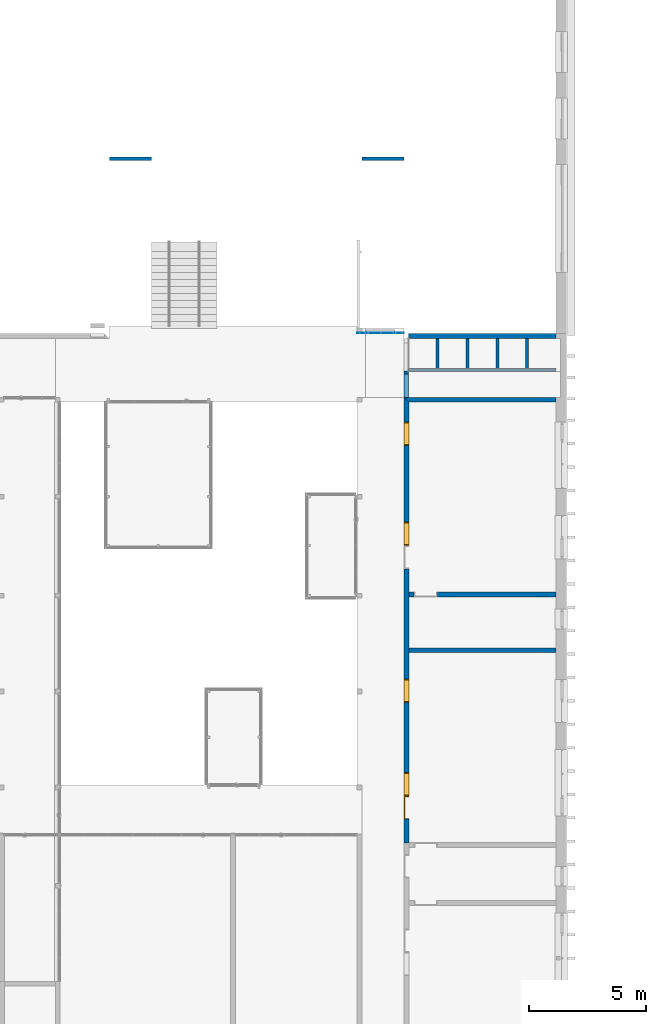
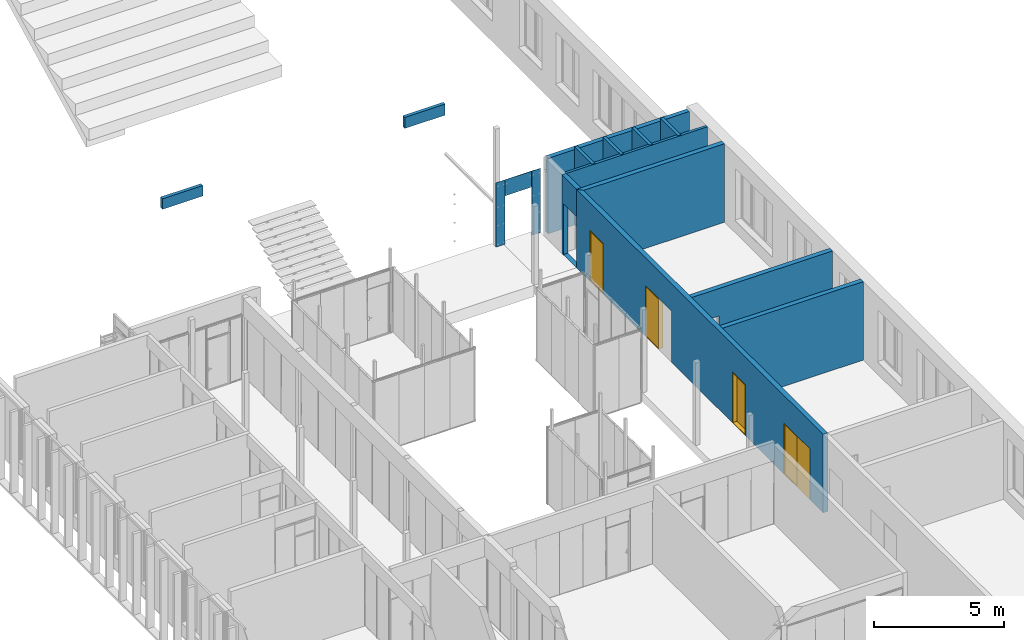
# One storey, part 32 of 387: 16 walls, 4 windows, 1 door, 8 openings.
"""IFC2X3 building model written with IfcOpenShell, lengths in millimetres."""

from ifc_helpers import new_model, entity, si_unit, converted_unit, derived_unit, money_unit, direction, frame, origin_with_axes, origin_2d_with_axis, place, context, subcontext, project, spatial, polyline, rectangle, outline, extrude, open_shell, faceted_brep, surface_model, source, transform, mapped, material, layer, layer_set, layer_usage, type_object, element, fill, save


model = new_model("IFC2X3")

# Units and contexts
model_context = context("Model", 3, precision=0.01, world=origin_with_axes(), true_north=direction((0.0, 1.0)))
body_context = subcontext(model_context, "Body", "Model", "MODEL_VIEW")
ifc_project = project(units=[si_unit("LENGTHUNIT", "METRE", prefix="MILLI"), si_unit("AREAUNIT", "SQUARE_METRE"), si_unit("VOLUMEUNIT", "CUBIC_METRE"), converted_unit("PLANEANGLEUNIT", "DEGREE", entity("IfcPlaneAngleMeasure", 0.0174532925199), si_unit("PLANEANGLEUNIT", "RADIAN"), dimensions=[0, 0, 0, 0, 0, 0, 0]), si_unit("SOLIDANGLEUNIT", "STERADIAN"), money_unit("EUR"), converted_unit("TIMEUNIT", "Year", entity("IfcTimeMeasure", 31556926.0), si_unit("TIMEUNIT", "SECOND"), dimensions=[0, 0, 1, 0, 0, 0, 0]), si_unit("MASSUNIT", "GRAM", prefix="KILO"), si_unit("THERMODYNAMICTEMPERATUREUNIT", "DEGREE_CELSIUS"), si_unit("LUMINOUSINTENSITYUNIT", "LUMEN"), si_unit("ENERGYUNIT", "JOULE", prefix="MEGA"), derived_unit("THERMALCONDUCTANCEUNIT", [(si_unit("POWERUNIT", "WATT"), 1), (si_unit("LENGTHUNIT", "METRE"), -1), (si_unit("THERMODYNAMICTEMPERATUREUNIT", "KELVIN"), -1)]), derived_unit("SPECIFICHEATCAPACITYUNIT", [(si_unit("ENERGYUNIT", "JOULE"), 1), (si_unit("MASSUNIT", "GRAM", prefix="KILO"), -1), (si_unit("THERMODYNAMICTEMPERATUREUNIT", "KELVIN"), -1)]), derived_unit("MASSDENSITYUNIT", [(si_unit("MASSUNIT", "GRAM", prefix="KILO"), 1), (si_unit("VOLUMEUNIT", "CUBIC_METRE"), -1)])], contexts=[model_context])

# Site, building, storey
site_placement = place(None, origin_with_axes())
site = spatial("IfcSite", under=ifc_project, at=site_placement, Name="Puškini 31, Narva", CompositionType="ELEMENT")
building_placement = place(site_placement, origin_with_axes())
building = spatial("IfcBuilding", under=site, at=building_placement, Name="Narva Riigigümnaasium", CompositionType="ELEMENT")
storey_placement = place(building_placement, frame((0.0, 0.0, 2640.0), z_axis=(0.0, 0.0, 1.0), x_axis=(1.0, 0.0, 0.0)))
storey = spatial("IfcBuildingStorey", under=building, at=storey_placement, Name="2.korrus +2.64", CompositionType="ELEMENT", Elevation=2640.0)

# Wall
ifc_material_1 = material(Name="Betoon element")
ifc_layer_1 = layer(ifc_material_1, 200.0, ventilated="UNKNOWN")
ifc_layer_set_1 = layer_set([ifc_layer_1], Name="G-SS-01")
ifc_layer_usage_1 = layer_usage(ifc_layer_set_1, "AXIS2", "POSITIVE", 0.0)
wall_type_1 = type_object("IfcWallType", Name="G-SS-01 200", PredefinedType="NOTDEFINED")
wall_1_placement = place(storey_placement, frame((53999.999986, 194900.0, 0.0), z_axis=(0.0, 0.0, 1.0), x_axis=(-1.0, 0.0, 0.0)))
element("IfcWallStandardCase", 1, at=wall_1_placement, inside=storey, type_object=wall_type_1, material=ifc_layer_usage_1, Name="Sisesein", context=body_context, shape_type="SweptSolid", body=[
    extrude(outline(polyline([(9.99998420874, 0.0), (6299.99999244, 0.0), (6299.99999244, 200.0), (9.99998420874, 200.0), (9.99998420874, 0.0)])), origin_with_axes(), (0.0, 0.0, 1.0), 3560.0),
])

# Wall, opening
wall_2_placement = place(storey_placement, frame((47499.9999936, 193300.0, 0.0), z_axis=(0.0, 0.0, 1.0), x_axis=(0.0, -1.0, 0.0)))
wall_2 = element("IfcWallStandardCase", 2, at=wall_2_placement, inside=storey, type_object=wall_type_1, material=ifc_layer_usage_1, Name="Sisesein", context=body_context, shape_type="SweptSolid", body=[
    extrude(outline(polyline([(0.0, 0.0), (1119.99999964, 0.0), (1119.99999964, 200.0), (0.0, 200.0), (0.0, 0.0)])), origin_with_axes(), (0.0, 0.0, 1.0), 3700.0),
])
opening_1_placement = place(wall_2_placement, frame((619.999999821, 0.0, 10.0), z_axis=(0.0, 0.0, 1.0), x_axis=(1.0, 0.0, 0.0)))
element("IfcOpeningElement", 3, at=opening_1_placement, cuts=wall_2, Name="Tühi ava", context=body_context, shape_type="SweptSolid", body=[
    extrude(rectangle(XDim=999.999999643, YDim=2400.0, at=origin_2d_with_axis()), frame((0.0, 200.0, 1200.0), z_axis=(0.0, -1.0, 0.0), x_axis=(1.0, 0.0, 0.0)), (0.0, 0.0, 1.0), 600.0),
])

# Walls
ifc_material_2 = material(Name="SKR-02_Kipsplaat")
ifc_layer_2 = layer(ifc_material_2, 12.5, ventilated="UNKNOWN")
ifc_material_3 = material(Name="SOJ-03_Soojustus - Mineraal Pehme")
ifc_layer_3 = layer(ifc_material_3, 100.0, ventilated="UNKNOWN")
ifc_layer_set_2 = layer_set([ifc_layer_2, ifc_layer_2, ifc_layer_3, ifc_layer_2, ifc_layer_2], Name="G-SS-09")
ifc_layer_usage_2 = layer_usage(ifc_layer_set_2, "AXIS2", "NEGATIVE", 0.0)
wall_type_2 = type_object("IfcWallType", Name="G-SS-09 150", PredefinedType="NOTDEFINED")
wall_3_placement = place(storey_placement, frame((36699.9999995, 202300.000012, 1025.0), z_axis=(0.0, 0.0, 1.0), x_axis=(-1.0, 0.0, 0.0)))
element("IfcWallStandardCase", 4, at=wall_3_placement, inside=storey, type_object=wall_type_2, material=ifc_layer_usage_2, Name="Sisesein", context=body_context, shape_type="SweptSolid", body=[
    extrude(outline(polyline([(0.0, -150.0), (1799.98612926, -150.0), (1799.98612926, 0.0), (0.0, 0.0), (0.0, -150.0)])), origin_with_axes(), (0.0, 0.0, 1.0), 495.0),
])
wall_4_placement = place(storey_placement, frame((47499.9861293, 202300.000012, 1055.0), z_axis=(0.0, 0.0, 1.0), x_axis=(-1.0, 0.0, 0.0)))
element("IfcWallStandardCase", 5, at=wall_4_placement, inside=storey, type_object=wall_type_2, material=ifc_layer_usage_2, Name="Sisesein", context=body_context, shape_type="SweptSolid", body=[
    extrude(outline(polyline([(0.0, -150.0), (1799.98612926, -150.0), (1799.98612926, 0.0), (0.0, 0.0), (0.0, -150.0)])), origin_with_axes(), (0.0, 0.0, 1.0), 520.0),
])
ifc_material_4 = material(Name="Klaas")
ifc_layer_4 = layer(ifc_material_4, 12.0, ventilated="UNKNOWN")
ifc_layer_set_3 = layer_set([ifc_layer_4], Name="Klaas 12")
ifc_layer_usage_3 = layer_usage(ifc_layer_set_3, "AXIS2", "POSITIVE", -12.0)
wall_type_3 = type_object("IfcWallType", Name="Klaas 12", PredefinedType="NOTDEFINED")
wall_5_placement = place(storey_placement, frame((45499.9999983, 194938.0, 0.0), z_axis=(0.0, 0.0, 1.0), x_axis=(1.0, 0.0, 0.0)))
element("IfcWallStandardCase", 6, at=wall_5_placement, inside=storey, type_object=wall_type_3, material=ifc_layer_usage_3, Name="Sisesein", context=body_context, shape_type="SweptSolid", body=[
    extrude(outline(polyline([(0.0, -12.0), (400.000000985, -12.0), (400.000000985, 0.0), (0.0, 0.0), (0.0, -12.0)])), origin_with_axes(), (0.0, 0.0, 1.0), 3029.0),
])
wall_6_placement = place(storey_placement, frame((47099.9999993, 194938.0, 0.0), z_axis=(0.0, 0.0, 1.0), x_axis=(1.0, 0.0, 0.0)))
element("IfcWallStandardCase", 7, at=wall_6_placement, inside=storey, type_object=wall_type_3, material=ifc_layer_usage_3, Name="Sisesein", context=body_context, shape_type="SweptSolid", body=[
    extrude(outline(polyline([(0.0, -12.0), (395.0, -12.0), (395.0, 0.0), (0.0, 0.0), (0.0, -12.0)])), origin_with_axes(), (0.0, 0.0, 1.0), 3029.0),
])
ifc_layer_usage_4 = layer_usage(ifc_layer_set_3, "AXIS2", "NEGATIVE", 12.0)
wall_7_placement = place(storey_placement, frame((47095.0, 194938.0, 2280.0), z_axis=(0.0, 0.0, 1.0), x_axis=(-1.0, 0.0, 0.0)))
element("IfcWallStandardCase", 8, at=wall_7_placement, inside=storey, type_object=wall_type_3, material=ifc_layer_usage_4, Name="Sisesein", context=body_context, shape_type="SweptSolid", body=[
    extrude(outline(polyline([(0.0, 0.0), (1190.0, 0.0), (1190.0, 12.0), (0.0, 12.0), (0.0, 0.0)])), origin_with_axes(), (0.0, 0.0, 1.0), 749.0),
])

# Wall, openings, windows, door
ifc_material_5 = material(Name="siseviimistlus-seinad")
ifc_layer_5 = layer(ifc_material_5, 10.0, ventilated="UNKNOWN")
ifc_layer_set_4 = layer_set([ifc_layer_1, ifc_layer_5], Name="G-SS-01-02")
ifc_layer_usage_5 = layer_usage(ifc_layer_set_4, "AXIS2", "POSITIVE", 0.0)
wall_type_4 = type_object("IfcWallType", Name="G-SS-01-02 210", PredefinedType="NOTDEFINED")
wall_8_placement = place(storey_placement, frame((47499.9999936, 192180.0, 0.0), z_axis=(0.0, 0.0, 1.0), x_axis=(0.0, -1.0, 0.0)))
wall_8 = element("IfcWallStandardCase", 9, at=wall_8_placement, inside=storey, type_object=wall_type_4, material=ifc_layer_usage_5, Name="Sisesein", context=body_context, shape_type="SweptSolid", body=[
    extrude(outline(polyline([(0.0, 0.0), (19049.9999939, 0.0), (19049.9999939, 210.0), (210.0, 210.0), (0.0, 0.0)])), origin_with_axes(), (0.0, 0.0, 1.0), 3700.0),
])
opening_2_placement = place(wall_8_placement, frame((16539.9999938, 0.0, 0.0), z_axis=(0.0, 0.0, 1.0), x_axis=(1.0, 0.0, 0.0)))
opening_2 = element("IfcOpeningElement", 10, at=opening_2_placement, cuts=wall_8, Name="G-SA-2", context=body_context, shape_type="SweptSolid", body=[
    extrude(rectangle(XDim=1000.0, YDim=2400.0, at=origin_2d_with_axis()), frame((0.0, 210.0, 1200.0), z_axis=(0.0, -1.0, 0.0), x_axis=(-1.0, 0.0, 0.0)), (0.0, 0.0, 1.0), 630.0),
])
opening_3_placement = place(wall_8_placement, frame((12553.8549067, 0.0, 0.0), z_axis=(0.0, 0.0, 1.0), x_axis=(1.0, 0.0, 0.0)))
opening_3 = element("IfcOpeningElement", 11, at=opening_3_placement, cuts=wall_8, Name="G-SA-2", context=body_context, shape_type="SweptSolid", body=[
    extrude(rectangle(XDim=1000.0, YDim=2400.0, at=origin_2d_with_axis()), frame((0.0, 210.0, 1200.0), z_axis=(0.0, 1.0, 0.0), x_axis=(-1.0, 0.0, 0.0)), (0.0, 0.0, -1.0), 630.0),
])
opening_4_placement = place(wall_8_placement, frame((5829.99999513, 0.0, 0.0), z_axis=(0.0, 0.0, 1.0), x_axis=(1.0, 0.0, 0.0)))
opening_4 = element("IfcOpeningElement", 12, at=opening_4_placement, cuts=wall_8, Name="G-SA-2", context=body_context, shape_type="SweptSolid", body=[
    extrude(rectangle(XDim=1000.0, YDim=2400.0, at=origin_2d_with_axis()), frame((0.0, 210.0, 1200.0), z_axis=(0.0, 1.0, 0.0), x_axis=(1.0, 0.0, 0.0)), (0.0, 0.0, -1.0), 630.0),
])
opening_5_placement = place(wall_8_placement, frame((1555.00000001, 0.0, 0.0), z_axis=(0.0, 0.0, 1.0), x_axis=(1.0, 0.0, 0.0)))
opening_5 = element("IfcOpeningElement", 13, at=opening_5_placement, cuts=wall_8, Name="G-SA-2", context=body_context, shape_type="SweptSolid", body=[
    extrude(rectangle(XDim=1000.0, YDim=2400.0, at=origin_2d_with_axis()), frame((0.0, 210.0, 1200.0), z_axis=(0.0, -1.0, 0.0), x_axis=(-1.0, 0.0, 0.0)), (0.0, 0.0, 1.0), 630.0),
])
opening_6_placement = place(wall_8_placement, frame((17539.9999938, 0.0, 0.0), z_axis=(0.0, 0.0, 1.0), x_axis=(1.0, 0.0, 0.0)))
opening_6 = element("IfcOpeningElement", 14, at=opening_6_placement, cuts=wall_8, Name="G-SU-065", context=body_context, shape_type="SweptSolid", body=[
    extrude(rectangle(XDim=1000.00000006, YDim=2400.0, at=origin_2d_with_axis()), frame((0.0, 210.0, 1200.0), z_axis=(0.0, 1.0, 0.0), x_axis=(1.0, 0.0, 0.0)), (0.0, 0.0, -1.0), 630.0),
])
opening_7_placement = place(wall_8_placement, frame((6829.99999516, 0.0, 0.0), z_axis=(0.0, 0.0, 1.0), x_axis=(1.0, 0.0, 0.0)))
element("IfcOpeningElement", 15, at=opening_7_placement, cuts=wall_8, Name="G-SU-063", context=body_context, shape_type="SweptSolid", body=[
    extrude(rectangle(XDim=1000.00000006, YDim=2400.0, at=origin_2d_with_axis()), frame((0.0, 210.0, 1200.0), z_axis=(0.0, -1.0, 0.0), x_axis=(-1.0, 0.0, 0.0)), (0.0, 0.0, 1.0), 630.0),
])
window_style = type_object("IfcWindowStyle", Name="Window 23", ConstructionType="NOTDEFINED", OperationType="SINGLE_PANEL", ParameterTakesPrecedence=False, Sizeable=False)
shared_shape_1 = source(origin_with_axes(), body_context, "Body", "SurfaceModel", [
    faceted_brep([(-460.0, -210.0, 2360.0), (-460.0, 0.0, 2360.0), (-500.0, 0.0, 2360.0), (-500.0, -210.0, 2360.0), (-460.0, -210.0, 40.0), (-460.0, 0.0, 40.0), (-500.0, 0.0, 40.0), (-500.0, -210.0, 40.0)], [[[0, 1, 2, 3]], [[4, 5, 1, 0]], [[1, 5, 6, 2]], [[3, 2, 6, 7]], [[0, 3, 7, 4]], [[7, 6, 5, 4]]]),
    faceted_brep([(460.0, -210.0, 40.0), (460.0, 0.0, 40.0), (500.0, 0.0, 40.0), (500.0, -210.0, 40.0), (460.0, -210.0, 2360.0), (460.0, 0.0, 2360.0), (500.0, 0.0, 2360.0), (500.0, -210.0, 2360.0)], [[[0, 1, 2, 3]], [[4, 5, 1, 0]], [[1, 5, 6, 2]], [[3, 2, 6, 7]], [[0, 3, 7, 4]], [[7, 6, 5, 4]]]),
    faceted_brep([(-460.0, -210.0, 40.0), (-460.0, 0.0, 40.0), (-500.0, 0.0, 40.0), (-500.0, -210.0, 40.0), (460.0, -210.0, 40.0), (460.0, 0.0, 40.0), (500.0, 0.0, 40.0), (500.0, 0.0, 0.0), (-500.0, 0.0, 0.0), (-500.0, -210.0, 0.0), (500.0, -210.0, 0.0), (500.0, -210.0, 40.0)], [[[0, 1, 2, 3]], [[4, 5, 1, 0]], [[1, 5, 6, 7, 8, 2]], [[3, 2, 8, 9]], [[0, 3, 9, 10, 11, 4]], [[11, 6, 5, 4]], [[10, 7, 6, 11]], [[9, 8, 7, 10]]]),
    faceted_brep([(460.0, -210.0, 2360.0), (460.0, 0.0, 2360.0), (500.0, 0.0, 2360.0), (500.0, -210.0, 2360.0), (-460.0, -210.0, 2360.0), (-460.0, 0.0, 2360.0), (-500.0, 0.0, 2360.0), (-500.0, 0.0, 2400.0), (500.0, 0.0, 2400.0), (500.0, -210.0, 2400.0), (-500.0, -210.0, 2400.0), (-500.0, -210.0, 2360.0)], [[[0, 1, 2, 3]], [[4, 5, 1, 0]], [[1, 5, 6, 7, 8, 2]], [[3, 2, 8, 9]], [[0, 3, 9, 10, 11, 4]], [[11, 6, 5, 4]], [[10, 7, 6, 11]], [[9, 8, 7, 10]]]),
    surface_model("IfcShellBasedSurfaceModel", [(-460.0, -35.0, 40.0), (460.0, -35.0, 40.0), (460.0, -35.0, 2360.0), (-460.0, -35.0, 2360.0)], [open_shell([[[0, 1, 2, 3]]])]),
    surface_model("IfcShellBasedSurfaceModel", [(-460.0, -15.0, 40.0), (-460.0, -15.0, 2360.0), (460.0, -15.0, 2360.0), (460.0, -15.0, 40.0)], [open_shell([[[0, 1, 2, 3]]])]),
])
window_1_placement = place(opening_2_placement, frame((500.0, 0.0, 0.0), z_axis=(0.0, 0.0, 1.0), x_axis=(-1.0, 0.0, 0.0)))
window_1 = element("IfcWindow", 16, at=window_1_placement, inside=storey, type_object=window_style, Name="G-SA-2", ObjectType="WINDOW", OverallHeight=2400.0, OverallWidth=1000.0, context=body_context, shape_type="MappedRepresentation", body=[
    mapped(shared_shape_1, transform((500.0, 0.0, 0.0))),
])
fill(opening_2, window_1)
window_2_placement = place(opening_5_placement, frame((500.0, 0.0, 0.0), z_axis=(0.0, 0.0, 1.0), x_axis=(-1.0, 0.0, 0.0)))
window_2 = element("IfcWindow", 17, at=window_2_placement, inside=storey, type_object=window_style, Name="G-SA-2", ObjectType="WINDOW", OverallHeight=2400.0, OverallWidth=1000.0, context=body_context, shape_type="MappedRepresentation", body=[
    mapped(shared_shape_1, transform((500.0, 0.0, 0.0))),
])
fill(opening_5, window_2)
shared_shape_2 = source(origin_with_axes(), body_context, "Body", "SurfaceModel", [
    faceted_brep([(460.0, -210.0, 2360.0), (500.0, -210.0, 2360.0), (500.0, 0.0, 2360.0), (460.0, 0.0, 2360.0), (460.0, -210.0, 40.0), (500.0, -210.0, 40.0), (500.0, 0.0, 40.0), (460.0, 0.0, 40.0)], [[[0, 1, 2, 3]], [[0, 4, 5, 1]], [[1, 5, 6, 2]], [[3, 2, 6, 7]], [[4, 0, 3, 7]], [[5, 4, 7, 6]]]),
    faceted_brep([(-460.0, -210.0, 40.0), (-500.0, -210.0, 40.0), (-500.0, 0.0, 40.0), (-460.0, 0.0, 40.0), (-460.0, -210.0, 2360.0), (-500.0, -210.0, 2360.0), (-500.0, 0.0, 2360.0), (-460.0, 0.0, 2360.0)], [[[0, 1, 2, 3]], [[0, 4, 5, 1]], [[1, 5, 6, 2]], [[3, 2, 6, 7]], [[4, 0, 3, 7]], [[5, 4, 7, 6]]]),
    faceted_brep([(460.0, -210.0, 40.0), (500.0, -210.0, 40.0), (500.0, 0.0, 40.0), (460.0, 0.0, 40.0), (-460.0, -210.0, 40.0), (-500.0, -210.0, 40.0), (-500.0, -210.0, 0.0), (500.0, -210.0, 0.0), (500.0, 0.0, 0.0), (-500.0, 0.0, 0.0), (-500.0, 0.0, 40.0), (-460.0, 0.0, 40.0)], [[[0, 1, 2, 3]], [[0, 4, 5, 6, 7, 1]], [[1, 7, 8, 2]], [[3, 2, 8, 9, 10, 11]], [[4, 0, 3, 11]], [[5, 4, 11, 10]], [[6, 5, 10, 9]], [[7, 6, 9, 8]]]),
    faceted_brep([(-460.0, -210.0, 2360.0), (-500.0, -210.0, 2360.0), (-500.0, 0.0, 2360.0), (-460.0, 0.0, 2360.0), (460.0, -210.0, 2360.0), (500.0, -210.0, 2360.0), (500.0, -210.0, 2400.0), (-500.0, -210.0, 2400.0), (-500.0, 0.0, 2400.0), (500.0, 0.0, 2400.0), (500.0, 0.0, 2360.0), (460.0, 0.0, 2360.0)], [[[0, 1, 2, 3]], [[0, 4, 5, 6, 7, 1]], [[1, 7, 8, 2]], [[3, 2, 8, 9, 10, 11]], [[4, 0, 3, 11]], [[5, 4, 11, 10]], [[6, 5, 10, 9]], [[7, 6, 9, 8]]]),
    surface_model("IfcShellBasedSurfaceModel", [(460.0, -35.0, 40.0), (460.0, -35.0, 2360.0), (-460.0, -35.0, 2360.0), (-460.0, -35.0, 40.0)], [open_shell([[[0, 1, 2, 3]]])]),
    surface_model("IfcShellBasedSurfaceModel", [(460.0, -15.0, 40.0), (-460.0, -15.0, 40.0), (-460.0, -15.0, 2360.0), (460.0, -15.0, 2360.0)], [open_shell([[[0, 1, 2, 3]]])]),
])
window_3_placement = place(opening_3_placement, frame((-500.0, 0.0, 0.0), z_axis=(0.0, 0.0, 1.0), x_axis=(1.0, 0.0, 0.0)))
window_3 = element("IfcWindow", 18, at=window_3_placement, inside=storey, type_object=window_style, Name="G-SA-2", ObjectType="WINDOW", OverallHeight=2400.0, OverallWidth=1000.0, context=body_context, shape_type="MappedRepresentation", body=[
    mapped(shared_shape_2, transform((500.0, 210.0, 0.0))),
])
fill(opening_3, window_3)
window_4_placement = place(opening_4_placement, frame((500.0, 0.0, 0.0), z_axis=(0.0, 0.0, 1.0), x_axis=(-1.0, 0.0, 0.0)))
window_4 = element("IfcWindow", 19, at=window_4_placement, inside=storey, type_object=window_style, Name="G-SA-2", ObjectType="WINDOW", OverallHeight=2400.0, OverallWidth=1000.0, context=body_context, shape_type="MappedRepresentation", body=[
    mapped(shared_shape_2, transform((500.0, 0.0, 0.0))),
])
fill(opening_4, window_4)
door_style = type_object("IfcDoorStyle", Name="Door 23", ConstructionType="NOTDEFINED", OperationType="SINGLE_SWING_LEFT", ParameterTakesPrecedence=False, Sizeable=False)
shared_shape_3 = source(origin_with_axes(), body_context, "Body", "Brep", [
    faceted_brep([(500.000000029, 0.0, 0.0), (500.000000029, -210.0, 0.0), (460.000000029, -210.0, 0.0), (460.000000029, 0.0, 0.0), (500.000000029, 0.0, 2360.0), (500.000000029, -210.0, 2360.0), (460.000000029, -210.0, 2360.0), (460.000000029, 0.0, 2360.0)], [[[0, 1, 2, 3]], [[4, 5, 1, 0]], [[1, 5, 6, 2]], [[3, 2, 6, 7]], [[0, 3, 7, 4]], [[7, 6, 5, 4]]]),
    faceted_brep([(-500.000000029, 0.0, 0.0), (-500.000000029, -210.0, 0.0), (-500.000000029, -210.0, 2360.0), (-500.000000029, 0.0, 2360.0), (-460.000000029, 0.0, 0.0), (-460.000000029, -210.0, 0.0), (-460.000000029, -210.0, 2360.0), (-460.000000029, 0.0, 2360.0)], [[[0, 1, 2, 3]], [[4, 5, 1, 0]], [[1, 5, 6, 2]], [[3, 2, 6, 7]], [[0, 3, 7, 4]], [[7, 6, 5, 4]]]),
    faceted_brep([(500.000000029, 0.0, 2400.0), (500.000000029, -210.0, 2400.0), (500.000000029, -210.0, 2360.0), (500.000000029, 0.0, 2360.0), (-500.000000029, 0.0, 2400.0), (-500.000000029, -210.0, 2400.0), (-500.000000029, -210.0, 2360.0), (-460.000000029, -210.0, 2360.0), (460.000000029, -210.0, 2360.0), (460.000000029, 0.0, 2360.0), (-460.000000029, 0.0, 2360.0), (-500.000000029, 0.0, 2360.0)], [[[0, 1, 2, 3]], [[4, 5, 1, 0]], [[1, 5, 6, 7, 8, 2]], [[3, 2, 8, 9]], [[0, 3, 9, 10, 11, 4]], [[11, 6, 5, 4]], [[10, 7, 6, 11]], [[9, 8, 7, 10]]]),
    faceted_brep([(-460.000000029, 0.0, 0.0), (460.000000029, 0.0, 0.0), (460.000000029, -40.0, 0.0), (-460.000000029, -40.0, 0.0), (-460.000000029, 0.0, 2360.0), (460.000000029, 0.0, 2360.0), (460.000000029, -40.0, 2360.0), (-460.000000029, -40.0, 2360.0)], [[[0, 1, 2, 3]], [[0, 4, 5, 1]], [[1, 5, 6, 2]], [[3, 2, 6, 7]], [[4, 0, 3, 7]], [[5, 4, 7, 6]]]),
])
door_placement = place(opening_6_placement, frame((500.000000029, 0.0, 0.0), z_axis=(0.0, 0.0, 1.0), x_axis=(-1.0, 0.0, 0.0)))
door = element("IfcDoor", 20, at=door_placement, inside=storey, type_object=door_style, Name="G-SU-065", ObjectType="DOOR", OverallHeight=2400.0, OverallWidth=1000.0, context=body_context, shape_type="MappedRepresentation", body=[
    mapped(shared_shape_3, transform((500.000000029, 0.0, 0.0))),
])
fill(opening_6, door)

# Walls
wall_9_placement = place(storey_placement, frame((54000.0000018, 192180.0, 0.0), z_axis=(0.0, 0.0, 1.0), x_axis=(-1.0, 0.0, 0.0)))
element("IfcWallStandardCase", 21, at=wall_9_placement, inside=storey, type_object=wall_type_4, material=ifc_layer_usage_5, Name="Sisesein", context=body_context, shape_type="SweptSolid", body=[
    extrude(outline(polyline([(10.0, 0.0), (6500.00000819, 0.0), (6290.00000819, 210.0), (10.0, 210.0), (10.0, 0.0)])), origin_with_axes(), (0.0, 0.0, 1.0), 3700.0),
])
ifc_layer_6 = layer(ifc_material_5, 15.0, ventilated="UNKNOWN")
ifc_material_6 = material(Name="kergbetoonplokk")
ifc_layer_7 = layer(ifc_material_6, 100.0, ventilated="UNKNOWN")
ifc_layer_set_5 = layer_set([ifc_layer_6, ifc_layer_7, ifc_layer_6], Name="G-SS-05-03")
ifc_layer_usage_6 = layer_usage(ifc_layer_set_5, "AXIS2", "POSITIVE", 0.0)
wall_type_5 = type_object("IfcWallType", Name="G-SS-05-03 130", PredefinedType="NOTDEFINED")
for number, where, z_axis, x_axis in (
    (22, (52704.9999945, 194900.0, 0.0), (0.0, 0.0, 1.0), (0.0, -1.0, 0.0)),
    (23, (50144.9999945, 194900.0, 0.0), (0.0, 0.0, 1.0), (0.0, -1.0, 0.0)),
    (24, (48864.9999945, 194900.0, 0.0), (0.0, 0.0, 1.0), (0.0, -1.0, 0.0)),
    (25, (51424.9999945, 194900.0, 0.0), (0.0, 0.0, 1.0), (0.0, -1.0, 0.0)),
):
    element("IfcWallStandardCase", number, at=place(storey_placement, frame(where, z_axis=z_axis, x_axis=x_axis)), inside=storey, type_object=wall_type_5, material=ifc_layer_usage_6, Name="Sisesein", context=body_context, shape_type="SweptSolid", body=[
        extrude(outline(polyline([(200.0, 0.0), (1564.99999991, 0.0), (1564.99999991, 130.0), (200.0, 130.0), (200.0, 0.0)])), origin_with_axes(), (0.0, 0.0, 1.0), 3700.0),
    ])
ifc_layer_set_6 = layer_set([ifc_layer_5, ifc_layer_7, ifc_layer_5], Name="G-SS-05")
ifc_layer_usage_7 = layer_usage(ifc_layer_set_6, "AXIS2", "NEGATIVE", 0.0)
wall_type_6 = type_object("IfcWallType", Name="G-SS-05 120", PredefinedType="NOTDEFINED")
wall_10_placement = place(storey_placement, frame((54000.0000018, 193290.0, 2400.0), z_axis=(0.0, 0.0, 1.0), x_axis=(-1.0, 0.0, 0.0)))
element("IfcWallStandardCase", 26, at=wall_10_placement, inside=storey, type_object=wall_type_6, material=ifc_layer_usage_7, Name="Sisesein", context=body_context, shape_type="SweptSolid", body=[
    extrude(outline(polyline([(10.0, -120.0), (6300.00000496, -120.0), (6300.00000496, 0.0), (10.0, 0.0), (10.0, -120.0)])), origin_with_axes(), (0.0, 0.0, 1.0), 1299.99999988),
])

# Wall, opening
ifc_material_7 = material(Name="õõnes betoonplokk")
ifc_layer_8 = layer(ifc_material_7, 190.0, ventilated="UNKNOWN")
ifc_layer_set_7 = layer_set([ifc_layer_5, ifc_layer_8, ifc_layer_5], Name="G-SS-02")
ifc_layer_usage_8 = layer_usage(ifc_layer_set_7, "AXIS2", "POSITIVE", 0.0)
wall_type_7 = type_object("IfcWallType", Name="G-SS-02 210", PredefinedType="NOTDEFINED")
wall_11_placement = place(storey_placement, frame((54000.0000018, 183850.000005, 0.0), z_axis=(0.0, 0.0, 1.0), x_axis=(-1.0, 0.0, 0.0)))
wall_11 = element("IfcWallStandardCase", 27, at=wall_11_placement, inside=storey, type_object=wall_type_7, material=ifc_layer_usage_8, Name="Sisesein", context=body_context, shape_type="SweptSolid", body=[
    extrude(outline(polyline([(10.0, 0.0), (6290.00000819, 0.0), (6290.00000819, 210.0), (10.0, 210.0), (10.0, 0.0)])), origin_with_axes(), (0.0, 0.0, 1.0), 3700.0),
])
opening_8_placement = place(wall_11_placement, frame((5570.00000816, 0.0, 0.0), z_axis=(0.0, 0.0, 1.0), x_axis=(1.0, 0.0, 0.0)))
element("IfcOpeningElement", 28, at=opening_8_placement, cuts=wall_11, Name="G-SU-064", context=body_context, shape_type="SweptSolid", body=[
    extrude(rectangle(XDim=1000.00000006, YDim=2400.0, at=origin_2d_with_axis()), frame((0.0, -210.0, 1200.0), z_axis=(0.0, 1.0, 0.0), x_axis=(1.0, 0.0, 0.0)), (0.0, 0.0, 1.0), 630.0),
])

# Wall
ifc_layer_usage_9 = layer_usage(ifc_layer_set_7, "AXIS2", "POSITIVE", -10.0)
wall_12_placement = place(storey_placement, frame((54000.0000018, 181460.00001, 0.0), z_axis=(0.0, 0.0, 1.0), x_axis=(-1.0, 0.0, 0.0)))
element("IfcWallStandardCase", 29, at=wall_12_placement, inside=storey, type_object=wall_type_7, material=ifc_layer_usage_9, Name="Sisesein", context=body_context, shape_type="SweptSolid", body=[
    extrude(outline(polyline([(10.0, -9.99999999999), (6290.00000819, -9.99999999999), (6290.00000819, 200.0), (10.0, 200.0), (10.0, -9.99999999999)])), origin_with_axes(), (0.0, 0.0, 1.0), 3700.0),
])

save(model, "model.ifc")
